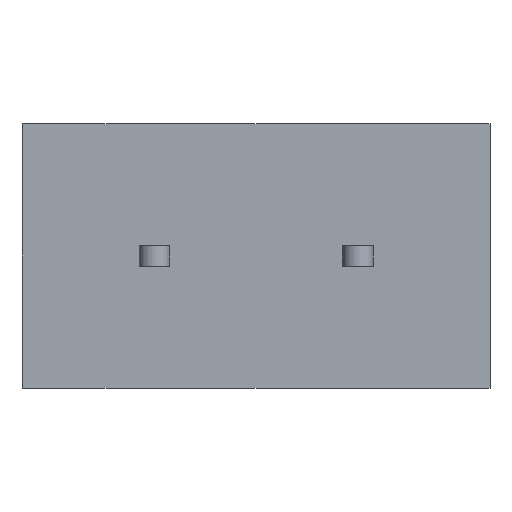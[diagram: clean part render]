
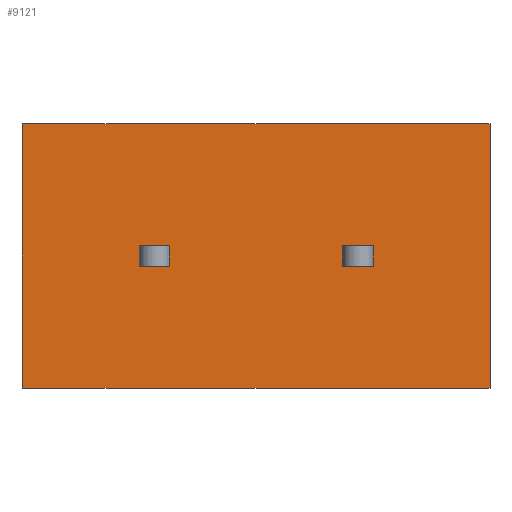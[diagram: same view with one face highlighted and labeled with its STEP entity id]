
A CAD part, front view. The second image highlights one B-rep face of the part: STEP entity #9121.
In plain terms, the highlighted planar face has unit normal (0, -1, 0).
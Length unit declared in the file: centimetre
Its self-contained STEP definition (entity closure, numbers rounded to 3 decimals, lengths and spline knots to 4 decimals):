
#564=VECTOR('',#9885,1.);
#568=VECTOR('',#9890,1.);
#570=VECTOR('',#9895,1.);
#573=VECTOR('',#9903,1.);
#1009=VECTOR('',#10489,1.);
#1138=VECTOR('',#10770,1.);
#1146=VECTOR('',#10779,1.);
#1147=VECTOR('',#10780,1.);
#1148=VECTOR('',#10781,1.);
#1149=VECTOR('',#10782,1.);
#1150=VECTOR('',#10783,1.);
#1151=VECTOR('',#10784,1.);
#1630=LINE('',#11598,#564);
#1634=LINE('',#11607,#568);
#1636=LINE('',#11613,#570);
#1639=LINE('',#11621,#573);
#2075=LINE('',#13191,#1009);
#2204=LINE('',#13580,#1138);
#2212=LINE('',#13597,#1146);
#2213=LINE('',#13600,#1147);
#2214=LINE('',#13602,#1148);
#2215=LINE('',#13604,#1149);
#2216=LINE('',#13605,#1150);
#2217=LINE('',#13606,#1151);
#2715=VERTEX_POINT('',#11599);
#2716=VERTEX_POINT('',#11600);
#2719=VERTEX_POINT('',#11608);
#2721=VERTEX_POINT('',#11614);
#3083=VERTEX_POINT('',#13189);
#3085=VERTEX_POINT('',#13192);
#3206=VERTEX_POINT('',#13581);
#3207=VERTEX_POINT('',#13582);
#3214=VERTEX_POINT('',#13598);
#3215=VERTEX_POINT('',#13599);
#3216=VERTEX_POINT('',#13601);
#3217=VERTEX_POINT('',#13603);
#3673=EDGE_CURVE('',#2715,#2716,#1630,.T.);
#3677=EDGE_CURVE('',#2719,#2715,#1634,.T.);
#3680=EDGE_CURVE('',#2716,#2721,#1636,.T.);
#3684=EDGE_CURVE('',#2721,#2719,#1639,.T.);
#4226=EDGE_CURVE('',#3085,#3083,#2075,.T.);
#4400=EDGE_CURVE('',#3206,#3207,#2204,.T.);
#4408=EDGE_CURVE('',#3214,#3215,#2212,.T.);
#4409=EDGE_CURVE('',#3216,#3214,#2213,.T.);
#4410=EDGE_CURVE('',#3217,#3216,#2214,.T.);
#4411=EDGE_CURVE('',#3215,#3217,#2215,.T.);
#4412=EDGE_CURVE('',#3207,#3085,#2216,.T.);
#4413=EDGE_CURVE('',#3206,#3083,#2217,.T.);
#6524=ORIENTED_EDGE('',*,*,#3677,.T.);
#6525=ORIENTED_EDGE('',*,*,#3673,.T.);
#6526=ORIENTED_EDGE('',*,*,#3680,.T.);
#6527=ORIENTED_EDGE('',*,*,#3684,.T.);
#6528=ORIENTED_EDGE('',*,*,#4408,.F.);
#6529=ORIENTED_EDGE('',*,*,#4409,.F.);
#6530=ORIENTED_EDGE('',*,*,#4410,.F.);
#6531=ORIENTED_EDGE('',*,*,#4411,.F.);
#6532=ORIENTED_EDGE('',*,*,#4412,.T.);
#6533=ORIENTED_EDGE('',*,*,#4226,.T.);
#6534=ORIENTED_EDGE('',*,*,#4413,.F.);
#6535=ORIENTED_EDGE('',*,*,#4400,.T.);
#8025=EDGE_LOOP('',(#6524,#6525,#6526,#6527));
#8026=EDGE_LOOP('',(#6528,#6529,#6530,#6531));
#8027=EDGE_LOOP('',(#6532,#6533,#6534,#6535));
#8589=FACE_BOUND('',#8025,.T.);
#8590=FACE_BOUND('',#8026,.T.);
#8591=FACE_BOUND('',#8027,.T.);
#9121=ADVANCED_FACE('',(#8589,#8590,#8591),#9564,.T.);
#9564=PLANE('',#15513);
#9885=DIRECTION('',(0.,0.,-1.));
#9890=DIRECTION('',(1.,0.,0.));
#9895=DIRECTION('',(-1.,0.,0.));
#9903=DIRECTION('',(0.,0.,1.));
#10489=DIRECTION('',(0.,0.,1.));
#10770=DIRECTION('',(0.,0.,-1.));
#10778=DIRECTION('',(0.,-1.,0.));
#10779=DIRECTION('',(-1.,0.,0.));
#10780=DIRECTION('',(0.,0.,1.));
#10781=DIRECTION('',(1.,0.,0.));
#10782=DIRECTION('',(0.,0.,-1.));
#10783=DIRECTION('',(1.,0.,0.));
#10784=DIRECTION('',(1.,0.,0.));
#11598=CARTESIAN_POINT('',(1.725,0.,0.));
#11599=CARTESIAN_POINT('',(1.725,0.,0.05));
#11600=CARTESIAN_POINT('',(1.725,0.,-0.05));
#11607=CARTESIAN_POINT('',(0.825,0.,0.05));
#11608=CARTESIAN_POINT('',(1.575,0.,0.05));
#11613=CARTESIAN_POINT('',(0.825,0.,-0.05));
#11614=CARTESIAN_POINT('',(1.575,0.,-0.05));
#11621=CARTESIAN_POINT('',(1.575,0.,0.));
#13189=CARTESIAN_POINT('',(2.3,0.,0.65));
#13191=CARTESIAN_POINT('',(2.3,0.,0.65));
#13192=CARTESIAN_POINT('',(2.3,0.,-0.65));
#13580=CARTESIAN_POINT('',(0.,0.,0.65));
#13581=CARTESIAN_POINT('',(0.,0.,0.65));
#13582=CARTESIAN_POINT('',(0.,0.,-0.65));
#13596=CARTESIAN_POINT('',(0.,0.,0.));
#13597=CARTESIAN_POINT('',(0.44,0.,0.05));
#13598=CARTESIAN_POINT('',(0.725,0.,0.05));
#13599=CARTESIAN_POINT('',(0.575,0.,0.05));
#13600=CARTESIAN_POINT('',(0.725,0.,0.));
#13601=CARTESIAN_POINT('',(0.725,0.,-0.05));
#13602=CARTESIAN_POINT('',(0.44,0.,-0.05));
#13603=CARTESIAN_POINT('',(0.575,0.,-0.05));
#13604=CARTESIAN_POINT('',(0.575,0.,0.));
#13605=CARTESIAN_POINT('',(0.,0.,-0.65));
#13606=CARTESIAN_POINT('',(0.,0.,0.65));
#15513=AXIS2_PLACEMENT_3D('',#13596,#10778,$);
